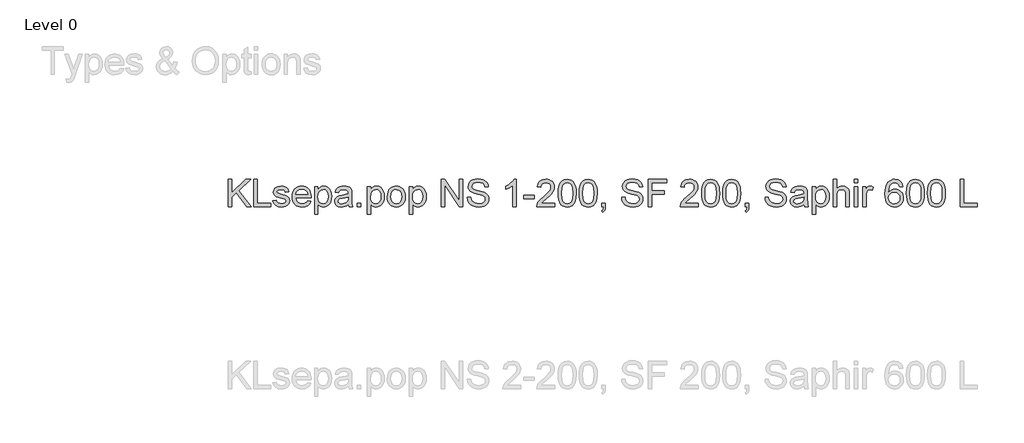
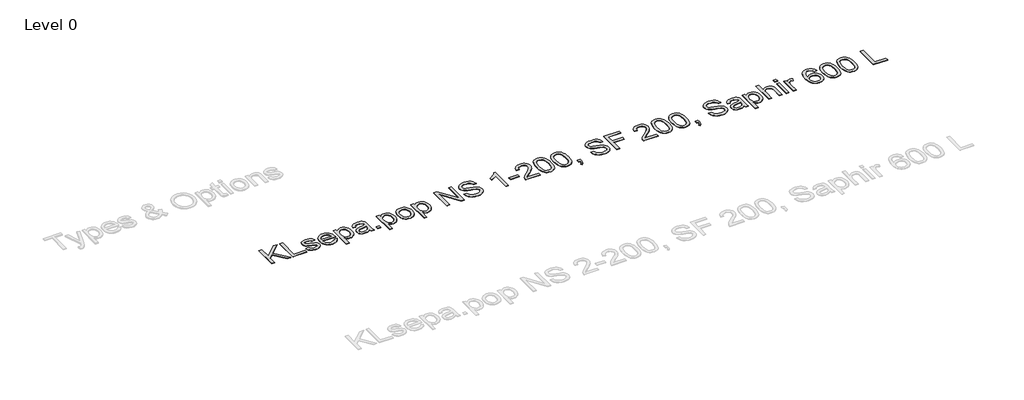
# One storey, part 15 of 15: 1 proxy.
"""IFC4 building model written with IfcOpenShell, lengths in millimetres."""

import ifcopenshell
import ifcopenshell.guid

model = None  # the IFC model being written
_history = None  # IfcOwnerHistory: only IFC2X3 demands one
_inside = {}  # id of a spatial element -> (the spatial element, [elements in it])
_under = {}  # id of a project, library or spatial element -> (it, [spatial elements below it])
_declared = {}  # id of a project -> (the project, [libraries it declares])
_typed = {}  # id of a type object -> (the type object, [elements of that type])
_made_of = {}  # id of a material, layer set ... -> (it, [elements and type objects made of it])


def new_model(schema):
    """Start an empty IFC model of exactly this schema.

    Asked for "IFC4X3", IfcOpenShell would pick the latest addendum, in which some entities
    have other attributes; the version numbers below select the first issue.
    IFC2X3 requires an IfcOwnerHistory on every rooted entity: one is made here for all.
    """
    global model, _history
    if schema == "IFC4X3":
        model = ifcopenshell.file(schema_version=(4, 3, 0, 0))
    else:
        model = ifcopenshell.file(schema=schema)
    _inside.clear()
    _under.clear()
    _declared.clear()
    _typed.clear()
    _made_of.clear()
    _history = None
    if model.schema == "IFC2X3":
        org = make("IfcOrganization", Name="unknown")
        user = make(
            "IfcPersonAndOrganization",
            ThePerson=make("IfcPerson", FamilyName="unknown"),
            TheOrganization=org,
        )
        app = make(
            "IfcApplication",
            ApplicationDeveloper=org,
            Version="unknown",
            ApplicationFullName="unknown",
            ApplicationIdentifier="unknown",
        )
        _history = make(
            "IfcOwnerHistory",
            OwningUser=user,
            OwningApplication=app,
            ChangeAction="ADDED",
            CreationDate=0,
        )
    return model


def make(cls, **values):
    """One entity of the class cls with the attributes given. An attribute that is None is left unset."""
    return model.create_entity(
        cls, **{name: value for name, value in values.items() if value is not None}
    )


def rooted(cls, **values):
    """An entity with a GlobalId (a new one), such as an element, a storey or a relation."""
    return make(cls, GlobalId=ifcopenshell.guid.new(), OwnerHistory=_history, **values)


def si_unit(unit_type, name, prefix=None):
    """IfcSIUnit, for example si_unit("LENGTHUNIT", "METRE", prefix="MILLI")."""
    return make("IfcSIUnit", UnitType=unit_type, Prefix=prefix, Name=name)


def assignment(units):
    """IfcUnitAssignment: the units of a project."""
    return None if units is None else make("IfcUnitAssignment", Units=units)


def point(xyz):
    """IfcCartesianPoint."""
    return None if xyz is None else make("IfcCartesianPoint", Coordinates=xyz)


def direction(xyz):
    """IfcDirection."""
    return None if xyz is None else make("IfcDirection", DirectionRatios=xyz)


def frame(location, z_axis=None, x_axis=None):
    """IfcAxis2Placement3D, a coordinate frame: its origin and axes. An axis left out is left unset."""
    return make(
        "IfcAxis2Placement3D",
        Location=point(location),
        Axis=direction(z_axis),
        RefDirection=direction(x_axis),
    )


def origin():
    """The frame at (0, 0, 0) with its axes left unset."""
    return frame((0.0, 0.0, 0.0))


def origin_with_axes():
    """The frame at (0, 0, 0) with the z axis (0, 0, 1) and the x axis (1, 0, 0) written out."""
    return frame((0.0, 0.0, 0.0), z_axis=(0.0, 0.0, 1.0), x_axis=(1.0, 0.0, 0.0))


def place(relative_to, where):
    """IfcLocalPlacement: puts the frame where relative to a parent placement (None: the world)."""
    return make(
        "IfcLocalPlacement", PlacementRelTo=relative_to, RelativePlacement=where
    )


def context(
    kind, dimensions, precision=None, world=None, true_north=None, identifier=None
):
    """IfcGeometricRepresentationContext, for example the 3D "Model" context."""
    return make(
        "IfcGeometricRepresentationContext",
        ContextIdentifier=identifier,
        ContextType=kind,
        CoordinateSpaceDimension=dimensions,
        Precision=precision,
        WorldCoordinateSystem=world,
        TrueNorth=true_north,
    )


def project(units=None, contexts=None):
    """IfcProject with its units and contexts."""
    return rooted(
        "IfcProject",
        Name="project",
        RepresentationContexts=contexts,
        UnitsInContext=assignment(units),
    )


def spatial(cls, under=None, at=None, **own):
    """A site, building, storey or space (cls), placed at a placement, below another one or the project."""
    s = rooted(cls, ObjectPlacement=at, **own)
    if under is not None:
        _under.setdefault(under.id(), (under, []))[1].append(s)
    return s


def polyline(points):
    """IfcPolyline through the points."""
    return make("IfcPolyline", Points=[point(p) for p in points])


def outline(outer, holes=None, kind="AREA"):
    """IfcArbitraryClosedProfileDef: a profile drawn as a closed curve; with holes, ...WithVoids."""
    if holes is None:
        return make("IfcArbitraryClosedProfileDef", ProfileType=kind, OuterCurve=outer)
    return make(
        "IfcArbitraryProfileDefWithVoids",
        ProfileType=kind,
        OuterCurve=outer,
        InnerCurves=holes,
    )


def extrude(swept, where, along, depth):
    """IfcExtrudedAreaSolid: the profile swept, set in the frame where, extruded along a direction by depth."""
    return make(
        "IfcExtrudedAreaSolid",
        SweptArea=swept,
        Position=where,
        ExtrudedDirection=direction(along),
        Depth=depth,
    )


def shape(context_of_items, identifier, shape_type, items):
    """IfcShapeRepresentation: the items that make up one representation, for example the "Body"."""
    return make(
        "IfcShapeRepresentation",
        ContextOfItems=context_of_items,
        RepresentationIdentifier=identifier,
        RepresentationType=shape_type,
        Items=items,
    )


def made_of(thing, what):
    """Note that an element or type object is made of a material, layer set ...; save() writes the relation."""
    if what is not None:
        _made_of.setdefault(what.id(), (what, []))[1].append(thing)
    return thing


def element(
    cls,
    number,
    at=None,
    inside=None,
    cuts=None,
    type_object=None,
    material=None,
    context=None,
    identifier="Body",
    shape_type=None,
    held_by="IfcProductDefinitionShape",
    body=None,
    shapes=None,
    **own,
):
    """One element of the class cls, such as IfcWall. Its Tag is "e" and its number.

    at: its placement. inside: the storey or other place that contains it. cuts: it is an
    opening in that element (IfcRelVoidsElement). A single representation is given by context,
    identifier, shape_type and body (its items); several are given by shapes. held_by: the class
    of the entity that holds the representations. save() writes the other relations.
    """
    e = rooted(cls, Tag="e%d" % number, ObjectPlacement=at, **own)
    if body is not None:
        shapes = [shape(context, identifier, shape_type, body)]
    if shapes is not None:
        e.Representation = make(held_by, Representations=shapes)
    if inside is not None:
        _inside.setdefault(inside.id(), (inside, []))[1].append(e)
    if cuts is not None:
        rooted(
            "IfcRelVoidsElement", RelatingBuildingElement=cuts, RelatedOpeningElement=e
        )
    if type_object is not None:
        _typed.setdefault(type_object.id(), (type_object, []))[1].append(e)
    return made_of(e, material)


def aggregate(whole, parts):
    """IfcRelAggregates: a whole, such as a stair, and the parts it consists of."""
    return rooted("IfcRelAggregates", RelatingObject=whole, RelatedObjects=parts)


def save(model, path):
    """Write the relations noted so far, then the file.

    IfcRelAggregates (storeys below a building ...), IfcRelContainedInSpatialStructure (elements
    in a storey), IfcRelDefinesByType, IfcRelAssociatesMaterial and IfcRelDeclares: one each for
    every whole, place, type object, material and project.
    """
    for whole, parts in _under.values():
        aggregate(whole, parts)
    for where, things in _inside.values():
        rooted(
            "IfcRelContainedInSpatialStructure",
            RelatedElements=things,
            RelatingStructure=where,
        )
    for kind, things in _typed.values():
        rooted("IfcRelDefinesByType", RelatedObjects=things, RelatingType=kind)
    for what, things in _made_of.values():
        rooted("IfcRelAssociatesMaterial", RelatedObjects=things, RelatingMaterial=what)
    for by, libraries in _declared.values():
        rooted("IfcRelDeclares", RelatingContext=by, RelatedDefinitions=libraries)
    model.write(path)


model = new_model("IFC4")

# Units and contexts
model_context = context("Model", 3, world=origin())
ifc_project = project(units=[si_unit("LENGTHUNIT", "METRE", prefix="MILLI")], contexts=[model_context])

# Site, building, storey
site = spatial("IfcSite", under=ifc_project)
building = spatial("IfcBuilding", under=site)
storey = spatial("IfcBuildingStorey", under=building, Name="Level 0", Elevation=0.0)

# Proxy
placement = place(None, origin())
element("IfcBuildingElementProxy", 1, Name="300mm Arial", ObjectType="300mm Arial", at=placement, inside=storey, context=model_context, shape_type="SweptSolid", body=[
    extrude(outline(polyline([(862.8420262, 10199.0232018), (862.8420262, 10500.3921323), (900.5131425, 10500.3921323), (900.5131425, 10352.8714522), (1055.0235805, 10500.3921323), (1107.7042822, 10500.3921323), (977.9890907, 10376.4894763), (1112.4131718, 10199.0232018), (1066.354346, 10199.0232018), (951.2808579, 10351.0320422), (900.5131425, 10302.6187717), (900.5131425, 10199.0232018), (862.8420262, 10199.0232018)])), origin_with_axes(), (0.0, 0.0, 1.0), 5.0),
    extrude(outline(polyline([(1140.666509, 10199.0232018), (1140.666509, 10500.3921323), (1178.3376253, 10500.3921323), (1178.3376253, 10236.6943181), (1329.0220905, 10236.6943181), (1329.0220905, 10199.0232018), (1140.666509, 10199.0232018)])), origin_with_axes(), (0.0, 0.0, 1.0), 5.0),
    extrude(outline(polyline([(1352.5665382, 10264.9476554), (1390.2376545, 10269.6565449), (1396.1789487, 10253.5433135), (1407.6752611, 10241.6975133), (1424.800168, 10234.4134498), (1447.6272458, 10231.9854286), (1470.1784121, 10234.2111147), (1486.0341261, 10240.8881729), (1495.4151169, 10250.5634693), (1498.5421139, 10261.7838702), (1495.3967228, 10271.3855903), (1485.9605497, 10278.706442), (1447.1857874, 10289.4485962), (1390.4583837, 10307.8794842), (1376.1017888, 10317.1409134), (1365.6999254, 10329.4005809), (1359.3815522, 10343.8767374), (1357.2754277, 10359.7876337), (1358.9676849, 10374.3833519), (1364.0444565, 10387.8570299), (1372.0458899, 10399.675239), (1382.5121326, 10409.3045503), (1406.4612505, 10420.4513747), (1438.8716543, 10425.0498997), (1463.3909893, 10423.2012926), (1484.7097509, 10417.6554716), (1501.8530519, 10408.9550624), (1513.8460049, 10397.642691), (1521.792256, 10382.881426), (1526.7954511, 10363.8343357), (1489.1243348, 10359.1254461), (1484.36946, 10370.9804434), (1474.960878, 10379.9107789), (1460.8066182, 10385.5117822), (1441.8147102, 10387.3787834), (1420.1832489, 10385.5945557), (1405.7622747, 10380.2418726), (1397.6504767, 10372.5163507), (1394.9465441, 10363.6136065), (1399.4347044, 10352.650723), (1413.4877966, 10344.3365899), (1445.9349886, 10336.3167624), (1501.2276525, 10318.5848503), (1515.8325677, 10310.1051703), (1526.9058157, 10298.4984933), (1533.8863766, 10283.7280312), (1536.2132302, 10265.7569957), (1533.4817064, 10247.178955), (1525.2871349, 10229.7045602), (1511.9422156, 10214.7041719), (1493.759648, 10203.5481504), (1471.7970928, 10196.6227718), (1447.112211, 10194.3143123), (1409.128395, 10198.7656844), (1381.4084866, 10212.1198009), (1362.9040223, 10234.2295088), (1352.5665382, 10264.9476554)])), origin_with_axes(), (0.0, 0.0, 1.0), 5.0),
    extrude(outline(polyline([(1733.5451324, 10264.9476554), (1770.4804847, 10260.2387658), (1757.1723536, 10232.4084929), (1735.9363654, 10211.6047661), (1707.2507668, 10198.6369257), (1671.5938044, 10194.3143123), (1648.2195022, 10196.1790141), (1627.3927827, 10201.7731197), (1609.1136461, 10211.0966291), (1593.3820923, 10224.1495421), (1580.7315501, 10240.5685754), (1571.6954486, 10259.9904455), (1566.2737877, 10282.4151523), (1564.4665674, 10307.842696), (1566.2921818, 10334.1324631), (1571.769025, 10357.3044302), (1580.897097, 10377.3585975), (1593.6763978, 10394.2949649), (1609.3665649, 10407.7502488), (1627.2272358, 10417.361166), (1647.2584104, 10423.1277162), (1669.4600889, 10425.0498997), (1690.9466966, 10423.1323148), (1710.3777638, 10417.3795601), (1727.7532903, 10407.7916356), (1743.0732761, 10394.3685413), (1755.5789647, 10377.4689621), (1764.5115994, 10357.451583), (1769.8711802, 10334.3164041), (1771.6577071, 10308.0634252), (1771.4369779, 10297.9098821), (1602.1376837, 10297.9098821), (1608.6583921, 10269.7117272), (1623.8059333, 10248.9815768), (1645.6673208, 10236.2344656), (1672.3295684, 10231.9854286), (1692.3791372, 10233.9535973), (1709.2649207, 10239.8581033), (1722.9869192, 10250.0668287), (1733.5451324, 10264.9476554)]), holes=[polyline([(1602.1376837, 10335.5809984), (1733.9865908, 10335.5809984), (1728.8914252, 10355.4834144), (1718.903429, 10369.7204476), (1696.9408739, 10382.9641994), (1669.3129361, 10387.3787834), (1643.9198813, 10383.8563132), (1622.9230165, 10373.2889029), (1608.3272983, 10356.8169866), (1602.1376837, 10335.5809984)])]), origin_with_axes(), (0.0, 0.0, 1.0), 5.0),
    extrude(outline(polyline([(1809.3288234, 10114.2631901), (1809.3288234, 10420.3410101), (1846.9999397, 10420.3410101), (1846.9999397, 10383.4056578), (1859.2871984, 10401.6250136), (1873.045985, 10414.6388392), (1889.08564, 10422.4471345), (1908.2155037, 10425.0498997), (1933.6913319, 10421.4078679), (1955.9665867, 10410.4817726), (1974.1031691, 10392.9338015), (1987.1629799, 10369.426142), (1995.0540487, 10341.6694455), (1997.6844049, 10311.3743631), (1994.7137578, 10279.1570974), (1985.8018165, 10250.3427401), (1971.2336895, 10226.3936223), (1951.2944854, 10208.7720747), (1928.0719344, 10197.9287529), (1903.653767, 10194.3143123), (1886.3357221, 10196.7331364), (1870.8754812, 10203.9896088), (1857.6409264, 10214.9432952), (1846.9999397, 10228.4537614), (1846.9999397, 10114.2631901), (1809.3288234, 10114.2631901)]), holes=[polyline([(1846.9999397, 10307.9162724), (1851.0742328, 10274.1447052), (1863.2971121, 10250.5266811), (1881.3325269, 10236.6207417), (1902.8444266, 10231.9854286), (1924.7058142, 10236.7862886), (1943.2010815, 10251.1888687), (1955.8102368, 10275.6714155), (1960.0132886, 10310.7121756), (1955.9114044, 10344.2998017), (1943.6057517, 10368.2489196), (1925.597928, 10382.5963174), (1904.389531, 10387.3787834), (1883.0983605, 10382.2928148), (1864.4007581, 10367.034909), (1851.3501443, 10342.0833127), (1846.9999397, 10307.9162724)])]), origin_with_axes(), (0.0, 0.0, 1.0), 5.0),
    extrude(outline(polyline([(2181.3310969, 10227.2765391), (2163.3324703, 10211.8438894), (2144.8004148, 10201.7455286), (2125.3118661, 10196.1721164), (2104.44376, 10194.3143123), (2072.9622582, 10198.7840785), (2049.7397073, 10212.1933772), (2035.4199006, 10232.5556457), (2030.6466317, 10257.8843211), (2032.4492535, 10273.5009117), (2037.8571188, 10287.6827627), (2046.1988431, 10299.8228685), (2056.8030416, 10309.314224), (2083.1801806, 10321.675059), (2115.7745254, 10327.3404417), (2154.2917703, 10333.3001301), (2181.1103677, 10340.289888), (2181.3310969, 10348.6775975), (2178.7375289, 10365.4898046), (2170.9568247, 10376.4894763), (2153.5560063, 10384.6564566), (2129.3125828, 10387.3787834), (2106.8717811, 10385.5669645), (2091.2000081, 10380.131508), (2080.5130362, 10370.0791325), (2073.0266376, 10354.4165566), (2035.3555213, 10359.1254461), (2041.8946237, 10379.7268379), (2051.6526936, 10395.9136456), (2065.540239, 10408.2928748), (2084.4677676, 10417.4715306), (2107.6167422, 10423.1553074), (2134.1686252, 10425.0498997), (2159.6352563, 10423.3760366), (2179.8227808, 10418.3544473), (2195.0438983, 10410.8036694), (2205.6113086, 10401.5422402), (2212.6194606, 10390.0919131), (2217.1628033, 10375.9744415), (2219.0022132, 10343.0122147), (2219.0022132, 10296.1440485), (2220.9151996, 10230.6978416), (2228.4199923, 10199.0232018), (2190.748876, 10199.0232018), (2181.3310969, 10227.2765391)]), holes=[polyline([(2181.3310969, 10302.6187717), (2120.5569913, 10291.067277), (2088.1465876, 10284.9604359), (2073.468096, 10275.027622), (2068.317748, 10260.5330714), (2071.1228482, 10249.3310647), (2079.5381489, 10240.1524089), (2093.3797089, 10234.0271737), (2112.4635874, 10231.9854286), (2132.6970972, 10234.2387058), (2150.5761621, 10240.9985375), (2165.0707128, 10250.9589425), (2175.1506794, 10262.8139398), (2179.6204457, 10275.027622), (2181.1103677, 10291.9501938), (2181.3310969, 10302.6187717)])]), origin_with_axes(), (0.0, 0.0, 1.0), 5.0),
    extrude(outline(polyline([(2280.2177772, 10199.0232018), (2280.2177772, 10236.6943181), (2317.8888936, 10236.6943181), (2317.8888936, 10199.0232018), (2280.2177772, 10199.0232018)])), origin_with_axes(), (0.0, 0.0, 1.0), 5.0),
    extrude(outline(polyline([(2388.5222366, 10114.2631901), (2388.5222366, 10420.3410101), (2426.1933529, 10420.3410101), (2426.1933529, 10383.4056578), (2438.4806116, 10401.6250136), (2452.2393982, 10414.6388392), (2468.2790532, 10422.4471345), (2487.4089169, 10425.0498997), (2512.8847451, 10421.4078679), (2535.1599999, 10410.4817726), (2553.2965823, 10392.9338015), (2566.3563931, 10369.426142), (2574.2474619, 10341.6694455), (2576.8778182, 10311.3743631), (2573.907171, 10279.1570974), (2564.9952297, 10250.3427401), (2550.4271027, 10226.3936223), (2530.4878986, 10208.7720747), (2507.2653476, 10197.9287529), (2482.8471802, 10194.3143123), (2465.5291353, 10196.7331364), (2450.0688944, 10203.9896088), (2436.8343396, 10214.9432952), (2426.1933529, 10228.4537614), (2426.1933529, 10114.2631901), (2388.5222366, 10114.2631901)]), holes=[polyline([(2426.1933529, 10307.9162724), (2430.267646, 10274.1447052), (2442.4905253, 10250.5266811), (2460.5259401, 10236.6207417), (2482.0378398, 10231.9854286), (2503.8992274, 10236.7862886), (2522.3944947, 10251.1888687), (2535.0036501, 10275.6714155), (2539.2067019, 10310.7121756), (2535.1048176, 10344.2998017), (2522.7991649, 10368.2489196), (2504.7913412, 10382.5963174), (2483.5829442, 10387.3787834), (2462.2917737, 10382.2928148), (2443.5941713, 10367.034909), (2430.5435575, 10342.0833127), (2426.1933529, 10307.9162724)])]), origin_with_axes(), (0.0, 0.0, 1.0), 5.0),
    extrude(outline(polyline([(2609.8400449, 10309.682106), (2611.8771915, 10338.3447119), (2617.9886311, 10363.0433894), (2628.1743639, 10383.7781383), (2642.4343897, 10400.5489588), (2656.7909846, 10411.2681204), (2672.6375015, 10418.9246644), (2689.9739405, 10423.5185909), (2708.8003016, 10425.0498997), (2729.5833351, 10423.1851978), (2748.3752073, 10417.5910922), (2765.1759181, 10408.2675829), (2779.9854677, 10395.2146698), (2792.0726905, 10378.8738115), (2800.7064211, 10359.6864662), (2805.8866594, 10337.6526339), (2807.6134055, 10312.7723147), (2804.559985, 10274.7149223), (2795.3997233, 10245.7442152), (2780.3993349, 10224.0483745), (2759.8255344, 10207.8155815), (2735.3889728, 10197.6896296), (2708.8003016, 10194.3143123), (2687.7137655, 10196.1721164), (2668.7471494, 10201.7455286), (2651.9004533, 10211.034549), (2637.1736772, 10224.0391775), (2625.2152131, 10240.538685), (2616.673453, 10260.3123422), (2611.5483969, 10283.3601492), (2609.8400449, 10309.682106)]), holes=[polyline([(2647.5111612, 10309.7556824), (2651.8705629, 10275.6622185), (2664.9487678, 10251.3728097), (2684.6304545, 10236.8322739), (2708.8003016, 10231.9854286), (2732.8597841, 10236.859865), (2752.5046827, 10251.4831743), (2765.5828876, 10276.0944798), (2769.9422892, 10310.9329048), (2765.5552964, 10344.0330873), (2752.3943181, 10367.9914022), (2732.7218284, 10382.5319381), (2708.8003016, 10387.3787834), (2684.6304545, 10382.5503322), (2664.9487678, 10368.0649786), (2651.8705629, 10343.8307522), (2647.5111612, 10309.7556824)])]), origin_with_axes(), (0.0, 0.0, 1.0), 5.0),
    extrude(outline(polyline([(2849.9934114, 10114.2631901), (2849.9934114, 10420.3410101), (2887.6645277, 10420.3410101), (2887.6645277, 10383.4056578), (2899.9517863, 10401.6250136), (2913.7105729, 10414.6388392), (2929.7502279, 10422.4471345), (2948.8800917, 10425.0498997), (2974.3559198, 10421.4078679), (2996.6311747, 10410.4817726), (3014.767757, 10392.9338015), (3027.8275678, 10369.426142), (3035.7186366, 10341.6694455), (3038.3489929, 10311.3743631), (3035.3783458, 10279.1570974), (3026.4664045, 10250.3427401), (3011.8982775, 10226.3936223), (2991.9590733, 10208.7720747), (2968.7365224, 10197.9287529), (2944.3183549, 10194.3143123), (2927.00031, 10196.7331364), (2911.5400692, 10203.9896088), (2898.3055144, 10214.9432952), (2887.6645277, 10228.4537614), (2887.6645277, 10114.2631901), (2849.9934114, 10114.2631901)]), holes=[polyline([(2887.6645277, 10307.9162724), (2891.7388208, 10274.1447052), (2903.9617001, 10250.5266811), (2921.9971149, 10236.6207417), (2943.5090145, 10231.9854286), (2965.3704021, 10236.7862886), (2983.8656694, 10251.1888687), (2996.4748248, 10275.6714155), (3000.6778766, 10310.7121756), (2996.5759924, 10344.2998017), (2984.2703396, 10368.2489196), (2966.262516, 10382.5963174), (2945.0541189, 10387.3787834), (2923.7629485, 10382.2928148), (2905.0653461, 10367.034909), (2892.0147323, 10342.0833127), (2887.6645277, 10307.9162724)])]), origin_with_axes(), (0.0, 0.0, 1.0), 5.0),
    extrude(outline(polyline([(3203.1601267, 10199.0232018), (3203.1601267, 10500.3921323), (3243.4799934, 10500.3921323), (3400.9334874, 10261.6367174), (3400.9334874, 10500.3921323), (3438.6046037, 10500.3921323), (3438.6046037, 10199.0232018), (3398.284737, 10199.0232018), (3240.8312431, 10437.8521931), (3240.8312431, 10199.0232018), (3203.1601267, 10199.0232018)])), origin_with_axes(), (0.0, 0.0, 1.0), 5.0),
    extrude(outline(polyline([(3490.4023886, 10302.6187717), (3528.0735049, 10302.6187717), (3532.3961183, 10281.7138773), (3540.2136107, 10264.9108672), (3552.4088989, 10251.5751448), (3569.8648995, 10241.0721139), (3591.2020553, 10234.2570999), (3615.0408085, 10231.9854286), (3636.0284764, 10233.7052769), (3654.404182, 10238.8648219), (3669.2942058, 10247.0318022), (3679.8248279, 10257.7739565), (3686.0880189, 10270.1072003), (3688.1757492, 10283.0474495), (3686.6122507, 10295.6566049), (3681.9217553, 10306.555109), (3672.3936116, 10315.8533264), (3656.3171684, 10323.6616218), (3601.4659629, 10338.0458078), (3565.4595126, 10347.5647544), (3542.4209027, 10356.6238486), (3523.668118, 10369.2973833), (3510.3783809, 10384.6564566), (3502.459721, 10402.3699747), (3499.8201677, 10422.1068437), (3503.0851204, 10444.1705664), (3512.8799785, 10464.7443669), (3528.9472246, 10482.1819735), (3551.0293414, 10494.8371141), (3577.5352391, 10502.5350449), (3606.8738283, 10505.1010218), (3638.6588326, 10502.4154832), (3666.4707115, 10494.3588675), (3689.3161834, 10481.0967216), (3706.2019669, 10462.7945924), (3716.8889389, 10440.592914), (3721.137976, 10415.6321206), (3683.4668596, 10415.6321206), (3676.5506781, 10438.1097105), (3662.1297039, 10454.3333065), (3639.5969317, 10464.1557557), (3608.3453562, 10467.4299055), (3576.3580168, 10464.1925439), (3554.4138557, 10454.4804593), (3541.7219269, 10440.1882438), (3537.491284, 10423.2104897), (3540.4895222, 10408.7343332), (3549.484237, 10397.090868), (3570.7478163, 10386.6798076), (3610.9941066, 10376.0480179), (3652.5279839, 10365.9496571), (3677.6543241, 10357.1388833), (3699.1294356, 10343.4720672), (3714.1114298, 10326.6046777), (3722.9130066, 10306.7206559), (3725.8468655, 10284.0039427), (3722.4715482, 10260.7813918), (3712.3455963, 10238.9383983), (3695.882877, 10220.1396283), (3673.4972576, 10206.0497479), (3646.5774926, 10197.2481712), (3616.5123365, 10194.3143123), (3579.6045754, 10197.4780974), (3549.2267196, 10206.9694529), (3525.0292814, 10222.8251669), (3506.6627728, 10245.0820276), (3494.8721548, 10272.1949307), (3490.4023886, 10302.6187717)])), origin_with_axes(), (0.0, 0.0, 1.0), 5.0),
    extrude(outline(polyline([(4027.2157959, 10199.0232018), (3989.5446796, 10199.0232018), (3989.5446796, 10433.8790675), (3953.8601261, 10408.4584217), (3914.202447, 10389.4389225), (3914.202447, 10425.0498997), (3943.7893565, 10441.1447369), (3969.4215345, 10460.2929948), (3989.6274531, 10480.6552632), (4002.9355843, 10500.3921323), (4027.2157959, 10500.3921323), (4027.2157959, 10199.0232018)])), origin_with_axes(), (0.0, 0.0, 1.0), 5.0),
    extrude(outline(polyline([(4107.2669181, 10288.492103), (4107.2669181, 10326.1632194), (4224.9891565, 10326.1632194), (4224.9891565, 10288.492103), (4107.2669181, 10288.492103)])), origin_with_axes(), (0.0, 0.0, 1.0), 5.0),
    extrude(outline(polyline([(4451.0158544, 10236.6943181), (4451.0158544, 10199.0232018), (4253.2424938, 10199.0232018), (4257.2891957, 10224.9956707), (4266.5782161, 10245.2935598), (4280.1714558, 10264.9844436), (4299.8347485, 10285.5950323), (4327.3339276, 10308.6520364), (4367.9848881, 10344.7596542), (4392.3754644, 10371.4127048), (4404.5707525, 10393.0441661), (4408.6358485, 10414.0870162), (4404.8006787, 10432.9501655), (4393.2951693, 10448.6311355), (4375.6092424, 10459.1985459), (4353.2328201, 10462.721016), (4329.7343576, 10459.2813193), (4311.4782136, 10448.9622293), (4299.6967927, 10432.5730865), (4295.6224996, 10410.923231), (4257.9513833, 10415.6321206), (4267.0840538, 10452.0708322), (4275.6304124, 10466.6067695), (4286.8301199, 10478.6870946), (4300.4256589, 10488.1830486), (4316.159512, 10494.9658728), (4354.0421605, 10500.3921323), (4374.2319842, 10498.8838161), (4392.2007204, 10494.3588675), (4407.9483691, 10486.8172866), (4421.4749302, 10476.2590734), (4432.3389453, 10463.465977), (4440.0989562, 10449.2197467), (4444.7549627, 10433.5203826), (4446.3069648, 10416.3678846), (4444.6331018, 10398.3508639), (4439.6115125, 10380.6465428), (4430.6995712, 10362.6387192), (4417.3546518, 10343.7111905), (4396.0818755, 10321.114039), (4363.3863631, 10292.0973466), (4320.0498641, 10255.8609701), (4303.0537159, 10236.6943181), (4451.0158544, 10236.6943181)])), origin_with_axes(), (0.0, 0.0, 1.0), 5.0),
    extrude(outline(polyline([(4488.6869707, 10347.2796459), (4491.4552827, 10395.5181725), (4499.7602187, 10433.9894321), (4513.5190054, 10463.282036), (4532.6488691, 10483.9845953), (4557.2877657, 10496.290248), (4587.573651, 10500.3921323), (4610.7870049, 10497.9641111), (4631.5723376, 10490.6800476), (4648.9547619, 10478.8250503), (4661.9593904, 10462.6842278), (4671.7818397, 10442.3955357), (4679.6177262, 10418.0969299), (4684.74968, 10387.2408276), (4686.4603313, 10347.2796459), (4683.7196104, 10299.3170308), (4675.4974478, 10260.9377416), (4661.8214347, 10231.6175466), (4642.7191621, 10210.8322139), (4618.0250831, 10198.4437877), (4587.573651, 10194.3143123), (4566.8251065, 10196.107737), (4548.4310067, 10201.4880112), (4532.3913517, 10210.4551348), (4518.7061415, 10223.0091079), (4505.5727543, 10245.7028285), (4496.1917634, 10273.9791583), (4490.5631689, 10307.8380975), (4488.6869707, 10347.2796459)]), holes=[polyline([(4526.358087, 10347.3532223), (4530.7726709, 10288.0966299), (4536.2909009, 10267.8286312), (4544.0164228, 10253.8008309), (4563.7348977, 10237.4392792), (4587.573651, 10231.9854286), (4611.4124043, 10237.4576733), (4631.1308792, 10253.8744073), (4638.8564011, 10267.9252003), (4644.374631, 10288.1886004), (4648.789215, 10347.3532223), (4644.5217838, 10405.2762424), (4639.1874949, 10425.4775625), (4631.7194904, 10439.8387559), (4612.0378037, 10457.0004509), (4587.1321926, 10462.721016), (4563.5509567, 10457.6810326), (4544.605034, 10442.5610826), (4536.6219947, 10426.9260978), (4530.9198237, 10405.8464595), (4526.358087, 10347.3532223)])]), origin_with_axes(), (0.0, 0.0, 1.0), 5.0),
    extrude(outline(polyline([(4719.4225581, 10347.2796459), (4722.1908701, 10395.5181725), (4730.4958061, 10433.9894321), (4744.2545927, 10463.282036), (4763.3844565, 10483.9845953), (4788.0233531, 10496.290248), (4818.3092384, 10500.3921323), (4841.5225923, 10497.9641111), (4862.307925, 10490.6800476), (4879.6903493, 10478.8250503), (4892.6949778, 10462.6842278), (4902.5174271, 10442.3955357), (4910.3533136, 10418.0969299), (4915.4852674, 10387.2408276), (4917.1959187, 10347.2796459), (4914.4551978, 10299.3170308), (4906.2330352, 10260.9377416), (4892.557022, 10231.6175466), (4873.4547494, 10210.8322139), (4848.7606705, 10198.4437877), (4818.3092384, 10194.3143123), (4797.5606938, 10196.107737), (4779.1665941, 10201.4880112), (4763.1269391, 10210.4551348), (4749.4417289, 10223.0091079), (4736.3083416, 10245.7028285), (4726.9273508, 10273.9791583), (4721.2987562, 10307.8380975), (4719.4225581, 10347.2796459)]), holes=[polyline([(4757.0936744, 10347.3532223), (4761.5082583, 10288.0966299), (4767.0264882, 10267.8286312), (4774.7520101, 10253.8008309), (4794.4704851, 10237.4392792), (4818.3092384, 10231.9854286), (4842.1479917, 10237.4576733), (4861.8664666, 10253.8744073), (4869.5919885, 10267.9252003), (4875.1102184, 10288.1886004), (4879.5248024, 10347.3532223), (4875.2573712, 10405.2762424), (4869.9230823, 10425.4775625), (4862.4550778, 10439.8387559), (4842.773391, 10457.0004509), (4817.86778, 10462.721016), (4794.2865441, 10457.6810326), (4775.3406213, 10442.5610826), (4767.357582, 10426.9260978), (4761.6554111, 10405.8464595), (4757.0936744, 10347.3532223)])]), origin_with_axes(), (0.0, 0.0, 1.0), 5.0),
    extrude(outline(polyline([(4968.9937036, 10199.0232018), (4968.9937036, 10236.6943181), (5006.6648199, 10236.6943181), (5006.6648199, 10199.0232018), (5004.9725627, 10177.474514), (4999.8957912, 10160.5059569), (4991.1401997, 10147.4921313), (4978.4114827, 10137.8076378), (4968.9937036, 10151.9343064), (4977.1606839, 10158.7585174), (4982.8260666, 10168.1946906), (4987.7556853, 10199.0232018), (4968.9937036, 10199.0232018)])), origin_with_axes(), (0.0, 0.0, 1.0), 5.0),
    extrude(outline(polyline([(5185.6026224, 10302.6187717), (5223.2737387, 10302.6187717), (5227.5963521, 10281.7138773), (5235.4138445, 10264.9108672), (5247.6091326, 10251.5751448), (5265.0651333, 10241.0721139), (5286.402289, 10234.2570999), (5310.2410423, 10231.9854286), (5331.2287101, 10233.7052769), (5349.6044158, 10238.8648219), (5364.4944396, 10247.0318022), (5375.0250617, 10257.7739565), (5381.2882526, 10270.1072003), (5383.375983, 10283.0474495), (5381.8124845, 10295.6566049), (5377.121989, 10306.555109), (5367.5938454, 10315.8533264), (5351.5174022, 10323.6616218), (5296.6661967, 10338.0458078), (5260.6597464, 10347.5647544), (5237.6211365, 10356.6238486), (5218.8683518, 10369.2973833), (5205.5786147, 10384.6564566), (5197.6599547, 10402.3699747), (5195.0204014, 10422.1068437), (5198.2853541, 10444.1705664), (5208.0802123, 10464.7443669), (5224.1474584, 10482.1819735), (5246.2295752, 10494.8371141), (5272.7354729, 10502.5350449), (5302.074062, 10505.1010218), (5333.8590664, 10502.4154832), (5361.6709452, 10494.3588675), (5384.5164171, 10481.0967216), (5401.4022007, 10462.7945924), (5412.0891727, 10440.592914), (5416.3382097, 10415.6321206), (5378.6670934, 10415.6321206), (5371.7509119, 10438.1097105), (5357.3299377, 10454.3333065), (5334.7971655, 10464.1557557), (5303.54559, 10467.4299055), (5271.5582505, 10464.1925439), (5249.6140895, 10454.4804593), (5236.9221607, 10440.1882438), (5232.6915177, 10423.2104897), (5235.689756, 10408.7343332), (5244.6844708, 10397.090868), (5265.9480501, 10386.6798076), (5306.1943404, 10376.0480179), (5347.7282176, 10365.9496571), (5372.8545579, 10357.1388833), (5394.3296694, 10343.4720672), (5409.3116636, 10326.6046777), (5418.1132404, 10306.7206559), (5421.0470993, 10284.0039427), (5417.671782, 10260.7813918), (5407.54583, 10238.9383983), (5391.0831108, 10220.1396283), (5368.6974914, 10206.0497479), (5341.7777264, 10197.2481712), (5311.7125703, 10194.3143123), (5274.8048091, 10197.4780974), (5244.4269534, 10206.9694529), (5220.2295151, 10222.8251669), (5201.8630065, 10245.0820276), (5190.0723886, 10272.1949307), (5185.6026224, 10302.6187717)])), origin_with_axes(), (0.0, 0.0, 1.0), 5.0),
    extrude(outline(polyline([(5477.5537737, 10199.0232018), (5477.5537737, 10500.3921323), (5680.0360239, 10500.3921323), (5680.0360239, 10462.721016), (5515.22489, 10462.721016), (5515.22489, 10373.2521147), (5656.4915762, 10373.2521147), (5656.4915762, 10335.5809984), (5515.22489, 10335.5809984), (5515.22489, 10199.0232018), (5477.5537737, 10199.0232018)])), origin_with_axes(), (0.0, 0.0, 1.0), 5.0),
    extrude(outline(polyline([(6028.4938497, 10236.6943181), (6028.4938497, 10199.0232018), (5830.7204891, 10199.0232018), (5834.767191, 10224.9956707), (5844.0562114, 10245.2935598), (5857.6494511, 10264.9844436), (5877.3127438, 10285.5950323), (5904.8119229, 10308.6520364), (5945.4628834, 10344.7596542), (5969.8534597, 10371.4127048), (5982.0487478, 10393.0441661), (5986.1138439, 10414.0870162), (5982.2786741, 10432.9501655), (5970.7731647, 10448.6311355), (5953.0872377, 10459.1985459), (5930.7108154, 10462.721016), (5907.2123529, 10459.2813193), (5888.9562089, 10448.9622293), (5877.174788, 10432.5730865), (5873.1004949, 10410.923231), (5835.4293786, 10415.6321206), (5844.5620492, 10452.0708322), (5853.1084078, 10466.6067695), (5864.3081153, 10478.6870946), (5877.9036542, 10488.1830486), (5893.6375073, 10494.9658728), (5931.5201558, 10500.3921323), (5951.7099795, 10498.8838161), (5969.6787157, 10494.3588675), (5985.4263644, 10486.8172866), (5998.9529255, 10476.2590734), (6009.8169407, 10463.465977), (6017.5769515, 10449.2197467), (6022.232958, 10433.5203826), (6023.7849602, 10416.3678846), (6022.1110971, 10398.3508639), (6017.0895079, 10380.6465428), (6008.1775665, 10362.6387192), (5994.8326471, 10343.7111905), (5973.5598708, 10321.114039), (5940.8643585, 10292.0973466), (5897.5278594, 10255.8609701), (5880.5317112, 10236.6943181), (6028.4938497, 10236.6943181)])), origin_with_axes(), (0.0, 0.0, 1.0), 5.0),
    extrude(outline(polyline([(6066.164966, 10347.2796459), (6068.933278, 10395.5181725), (6077.2382141, 10433.9894321), (6090.9970007, 10463.282036), (6110.1268644, 10483.9845953), (6134.7657611, 10496.290248), (6165.0516463, 10500.3921323), (6188.2650002, 10497.9641111), (6209.0503329, 10490.6800476), (6226.4327572, 10478.8250503), (6239.4373857, 10462.6842278), (6249.259835, 10442.3955357), (6257.0957215, 10418.0969299), (6262.2276753, 10387.2408276), (6263.9383266, 10347.2796459), (6261.1976058, 10299.3170308), (6252.9754432, 10260.9377416), (6239.29943, 10231.6175466), (6220.1971574, 10210.8322139), (6195.5030785, 10198.4437877), (6165.0516463, 10194.3143123), (6144.3031018, 10196.107737), (6125.909002, 10201.4880112), (6109.869347, 10210.4551348), (6096.1841368, 10223.0091079), (6083.0507496, 10245.7028285), (6073.6697587, 10273.9791583), (6068.0411642, 10307.8380975), (6066.164966, 10347.2796459)]), holes=[polyline([(6103.8360823, 10347.3532223), (6108.2506663, 10288.0966299), (6113.7688962, 10267.8286312), (6121.4944181, 10253.8008309), (6141.212893, 10237.4392792), (6165.0516463, 10231.9854286), (6188.8903996, 10237.4576733), (6208.6088745, 10253.8744073), (6216.3343964, 10267.9252003), (6221.8526264, 10288.1886004), (6226.2672103, 10347.3532223), (6221.9997792, 10405.2762424), (6216.6654902, 10425.4775625), (6209.1974857, 10439.8387559), (6189.515799, 10457.0004509), (6164.6101879, 10462.721016), (6141.028952, 10457.6810326), (6122.0830293, 10442.5610826), (6114.09999, 10426.9260978), (6108.3978191, 10405.8464595), (6103.8360823, 10347.3532223)])]), origin_with_axes(), (0.0, 0.0, 1.0), 5.0),
    extrude(outline(polyline([(6296.9005534, 10347.2796459), (6299.6688654, 10395.5181725), (6307.9738014, 10433.9894321), (6321.7325881, 10463.282036), (6340.8624518, 10483.9845953), (6365.5013484, 10496.290248), (6395.7872337, 10500.3921323), (6419.0005876, 10497.9641111), (6439.7859203, 10490.6800476), (6457.1683446, 10478.8250503), (6470.1729731, 10462.6842278), (6479.9954224, 10442.3955357), (6487.8313089, 10418.0969299), (6492.9632627, 10387.2408276), (6494.673914, 10347.2796459), (6491.9331931, 10299.3170308), (6483.7110305, 10260.9377416), (6470.0350174, 10231.6175466), (6450.9327448, 10210.8322139), (6426.2386658, 10198.4437877), (6395.7872337, 10194.3143123), (6375.0386892, 10196.107737), (6356.6445894, 10201.4880112), (6340.6049344, 10210.4551348), (6326.9197242, 10223.0091079), (6313.786337, 10245.7028285), (6304.4053461, 10273.9791583), (6298.7767516, 10307.8380975), (6296.9005534, 10347.2796459)]), holes=[polyline([(6334.5716697, 10347.3532223), (6338.9862536, 10288.0966299), (6344.5044836, 10267.8286312), (6352.2300055, 10253.8008309), (6371.9484804, 10237.4392792), (6395.7872337, 10231.9854286), (6419.625987, 10237.4576733), (6439.3444619, 10253.8744073), (6447.0699838, 10267.9252003), (6452.5882137, 10288.1886004), (6457.0027977, 10347.3532223), (6452.7353665, 10405.2762424), (6447.4010776, 10425.4775625), (6439.9330731, 10439.8387559), (6420.2513864, 10457.0004509), (6395.3457753, 10462.721016), (6371.7645394, 10457.6810326), (6352.8186167, 10442.5610826), (6344.8355774, 10426.9260978), (6339.1334064, 10405.8464595), (6334.5716697, 10347.3532223)])]), origin_with_axes(), (0.0, 0.0, 1.0), 5.0),
    extrude(outline(polyline([(6546.4716989, 10199.0232018), (6546.4716989, 10236.6943181), (6584.1428152, 10236.6943181), (6584.1428152, 10199.0232018), (6582.450558, 10177.474514), (6577.3737865, 10160.5059569), (6568.618195, 10147.4921313), (6555.889478, 10137.8076378), (6546.4716989, 10151.9343064), (6554.6386792, 10158.7585174), (6560.3040619, 10168.1946906), (6565.2336807, 10199.0232018), (6546.4716989, 10199.0232018)])), origin_with_axes(), (0.0, 0.0, 1.0), 5.0),
    extrude(outline(polyline([(6763.0806177, 10302.6187717), (6800.751734, 10302.6187717), (6805.0743474, 10281.7138773), (6812.8918398, 10264.9108672), (6825.087128, 10251.5751448), (6842.5431286, 10241.0721139), (6863.8802844, 10234.2570999), (6887.7190376, 10231.9854286), (6908.7067055, 10233.7052769), (6927.0824111, 10238.8648219), (6941.9724349, 10247.0318022), (6952.503057, 10257.7739565), (6958.766248, 10270.1072003), (6960.8539783, 10283.0474495), (6959.2904798, 10295.6566049), (6954.5999844, 10306.555109), (6945.0718407, 10315.8533264), (6928.9953975, 10323.6616218), (6874.144192, 10338.0458078), (6838.1377417, 10347.5647544), (6815.0991318, 10356.6238486), (6796.3463471, 10369.2973833), (6783.05661, 10384.6564566), (6775.1379501, 10402.3699747), (6772.4983967, 10422.1068437), (6775.7633495, 10444.1705664), (6785.5582076, 10464.7443669), (6801.6254537, 10482.1819735), (6823.7075705, 10494.8371141), (6850.2134682, 10502.5350449), (6879.5520573, 10505.1010218), (6911.3370617, 10502.4154832), (6939.1489406, 10494.3588675), (6961.9944125, 10481.0967216), (6978.880196, 10462.7945924), (6989.567168, 10440.592914), (6993.816205, 10415.6321206), (6956.1450887, 10415.6321206), (6949.2289072, 10438.1097105), (6934.807933, 10454.3333065), (6912.2751608, 10464.1557557), (6881.0235853, 10467.4299055), (6849.0362458, 10464.1925439), (6827.0920848, 10454.4804593), (6814.400156, 10440.1882438), (6810.1695131, 10423.2104897), (6813.1677513, 10408.7343332), (6822.1624661, 10397.090868), (6843.4260454, 10386.6798076), (6883.6723357, 10376.0480179), (6925.2062129, 10365.9496571), (6950.3325532, 10357.1388833), (6971.8076647, 10343.4720672), (6986.7896589, 10326.6046777), (6995.5912357, 10306.7206559), (6998.5250946, 10284.0039427), (6995.1497773, 10260.7813918), (6985.0238254, 10238.9383983), (6968.5611061, 10220.1396283), (6946.1754867, 10206.0497479), (6919.2557217, 10197.2481712), (6889.1905656, 10194.3143123), (6852.2828045, 10197.4780974), (6821.9049487, 10206.9694529), (6797.7075105, 10222.8251669), (6779.3410019, 10245.0820276), (6767.5503839, 10272.1949307), (6763.0806177, 10302.6187717)])), origin_with_axes(), (0.0, 0.0, 1.0), 5.0),
    extrude(outline(polyline([(7191.5895657, 10227.2765391), (7173.590939, 10211.8438894), (7155.0588835, 10201.7455286), (7135.5703348, 10196.1721164), (7114.7022287, 10194.3143123), (7083.2207269, 10198.7840785), (7059.998176, 10212.1933772), (7045.6783693, 10232.5556457), (7040.9051004, 10257.8843211), (7042.7077222, 10273.5009117), (7048.1155875, 10287.6827627), (7056.4573118, 10299.8228685), (7067.0615103, 10309.314224), (7093.4386493, 10321.675059), (7126.0329941, 10327.3404417), (7164.550239, 10333.3001301), (7191.3688365, 10340.289888), (7191.5895657, 10348.6775975), (7188.9959976, 10365.4898046), (7181.2152934, 10376.4894763), (7163.814475, 10384.6564566), (7139.5710515, 10387.3787834), (7117.1302498, 10385.5669645), (7101.4584768, 10380.131508), (7090.7715049, 10370.0791325), (7083.2851063, 10354.4165566), (7045.61399, 10359.1254461), (7052.1530924, 10379.7268379), (7061.9111624, 10395.9136456), (7075.7987077, 10408.2928748), (7094.7262363, 10417.4715306), (7117.8752109, 10423.1553074), (7144.4270939, 10425.0498997), (7169.893725, 10423.3760366), (7190.0812495, 10418.3544473), (7205.302367, 10410.8036694), (7215.8697773, 10401.5422402), (7222.8779293, 10390.0919131), (7227.421272, 10375.9744415), (7229.260682, 10343.0122147), (7229.260682, 10296.1440485), (7231.1736683, 10230.6978416), (7238.678461, 10199.0232018), (7201.0073447, 10199.0232018), (7191.5895657, 10227.2765391)]), holes=[polyline([(7191.5895657, 10302.6187717), (7130.8154601, 10291.067277), (7098.4050563, 10284.9604359), (7083.7265647, 10275.027622), (7078.5762167, 10260.5330714), (7081.3813169, 10249.3310647), (7089.7966176, 10240.1524089), (7103.6381777, 10234.0271737), (7122.7220562, 10231.9854286), (7142.9555659, 10234.2387058), (7160.8346309, 10240.9985375), (7175.3291815, 10250.9589425), (7185.4091481, 10262.8139398), (7189.8789144, 10275.027622), (7191.3688365, 10291.9501938), (7191.5895657, 10302.6187717)])]), origin_with_axes(), (0.0, 0.0, 1.0), 5.0),
    extrude(outline(polyline([(7281.0584669, 10114.2631901), (7281.0584669, 10420.3410101), (7318.7295832, 10420.3410101), (7318.7295832, 10383.4056578), (7331.0168418, 10401.6250136), (7344.7756284, 10414.6388392), (7360.8152834, 10422.4471345), (7379.9451472, 10425.0498997), (7405.4209754, 10421.4078679), (7427.6962302, 10410.4817726), (7445.8328125, 10392.9338015), (7458.8926233, 10369.426142), (7466.7836921, 10341.6694455), (7469.4140484, 10311.3743631), (7466.4434013, 10279.1570974), (7457.53146, 10250.3427401), (7442.963333, 10226.3936223), (7423.0241288, 10208.7720747), (7399.8015779, 10197.9287529), (7375.3834104, 10194.3143123), (7358.0653655, 10196.7331364), (7342.6051247, 10203.9896088), (7329.3705699, 10214.9432952), (7318.7295832, 10228.4537614), (7318.7295832, 10114.2631901), (7281.0584669, 10114.2631901)]), holes=[polyline([(7318.7295832, 10307.9162724), (7322.8038763, 10274.1447052), (7335.0267556, 10250.5266811), (7353.0621704, 10236.6207417), (7374.5740701, 10231.9854286), (7396.4354576, 10236.7862886), (7414.9307249, 10251.1888687), (7427.5398803, 10275.6714155), (7431.7429321, 10310.7121756), (7427.6410479, 10344.2998017), (7415.3353951, 10368.2489196), (7397.3275715, 10382.5963174), (7376.1191744, 10387.3787834), (7354.828004, 10382.2928148), (7336.1304016, 10367.034909), (7323.0797878, 10342.0833127), (7318.7295832, 10307.9162724)])]), origin_with_axes(), (0.0, 0.0, 1.0), 5.0),
    extrude(outline(polyline([(7511.7940543, 10199.0232018), (7511.7940543, 10500.3921323), (7549.4651706, 10500.3921323), (7549.4651706, 10389.5860753), (7563.3021321, 10405.1014985), (7578.8405479, 10416.1839436), (7596.0804179, 10422.8334106), (7615.0217421, 10425.0498997), (7637.7752435, 10422.6310755), (7657.3281715, 10415.3746032), (7672.724033, 10403.8506997), (7683.0063348, 10388.6295821), (7688.8004762, 10367.7154907), (7690.7318567, 10339.1126656), (7690.7318567, 10199.0232018), (7653.0607404, 10199.0232018), (7653.0607404, 10335.2131164), (7650.0625021, 10358.7943523), (7641.0677874, 10374.9443719), (7626.5732368, 10384.2701805), (7607.075491, 10387.3787834), (7591.1553977, 10385.281856), (7576.2101916, 10378.9910739), (7563.8309625, 10369.1134423), (7555.6087999, 10356.2559666), (7551.0010779, 10339.1678479), (7549.4651706, 10316.5982875), (7549.4651706, 10199.0232018), (7511.7940543, 10199.0232018)])), origin_with_axes(), (0.0, 0.0, 1.0), 5.0),
    extrude(outline(polyline([(7742.5296416, 10462.721016), (7742.5296416, 10500.3921323), (7780.2007579, 10500.3921323), (7780.2007579, 10462.721016), (7742.5296416, 10462.721016)])), origin_with_axes(), (0.0, 0.0, 1.0), 5.0),
    extrude(outline(polyline([(7742.5296416, 10199.0232018), (7742.5296416, 10420.3410101), (7780.2007579, 10420.3410101), (7780.2007579, 10199.0232018), (7742.5296416, 10199.0232018)])), origin_with_axes(), (0.0, 0.0, 1.0), 5.0),
    extrude(outline(polyline([(7836.7074324, 10199.0232018), (7836.7074324, 10420.3410101), (7869.6696592, 10420.3410101), (7869.6696592, 10387.5995125), (7881.8465532, 10406.5822235), (7893.0669541, 10417.7658362), (7904.3241431, 10423.2288838), (7916.6114017, 10425.0498997), (7935.3733835, 10422.1436319), (7954.4296709, 10413.4248286), (7941.8481066, 10379.6532615), (7928.6043548, 10385.4474029), (7915.360603, 10387.3787834), (7904.112611, 10385.5209793), (7894.0602354, 10379.947567), (7885.9392404, 10371.081611), (7880.4853898, 10359.3461753), (7875.905259, 10338.3033252), (7874.3785487, 10315.3474887), (7874.3785487, 10199.0232018), (7836.7074324, 10199.0232018)])), origin_with_axes(), (0.0, 0.0, 1.0), 5.0),
    extrude(outline(polyline([(8279.343049, 10420.3410101), (8241.6719327, 10415.6321206), (8235.6018798, 10434.3021318), (8227.3981113, 10447.049243), (8210.3099926, 10458.8030727), (8189.6534186, 10462.721016), (8172.1422356, 10460.4401476), (8155.6611222, 10453.5975425), (8141.5068624, 10439.1857653), (8129.9461708, 10419.3477287), (8122.1378754, 10391.2875296), (8119.2408047, 10352.2092646), (8134.3515576, 10369.8400092), (8152.4605489, 10382.2652236), (8172.5561028, 10389.6320606), (8193.6265441, 10392.0876729), (8211.7263383, 10390.4092113), (8228.4281809, 10385.3738265), (8243.7320719, 10376.9815185), (8257.6380113, 10365.2322872), (8269.1941045, 10350.8251086), (8277.4484567, 10334.4589583), (8282.4010681, 10316.1338365), (8284.0519385, 10295.849743), (8280.9433357, 10268.8747957), (8271.6175271, 10243.868017), (8256.847065, 10222.65962), (8237.4045015, 10207.0798175), (8214.1727535, 10197.5056886), (8188.0347378, 10194.3143123), (8165.5778412, 10196.4296338), (8145.296047, 10202.7755982), (8127.189355, 10213.3522055), (8111.2577654, 10228.1594558), (8098.2692317, 10247.8227485), (8088.9917076, 10272.9674829), (8083.4251932, 10303.593659), (8081.5696884, 10339.7012768), (8083.6298276, 10380.1820918), (8089.8102451, 10414.7308097), (8100.1109409, 10443.3474304), (8114.5319152, 10466.0319539), (8130.1623014, 10481.0645319), (8148.2850882, 10491.8020877), (8168.9002755, 10498.2446211), (8192.0078633, 10500.3921323), (8225.0620606, 10495.0762374), (8251.5311702, 10479.1285529), (8270.0724227, 10453.7998776), (8279.343049, 10420.3410101)]), holes=[polyline([(8119.2408047, 10296.4383541), (8121.4205055, 10279.7457086), (8127.959608, 10263.8072212), (8138.113151, 10250.1036169), (8151.1361737, 10240.1156207), (8166.8539319, 10234.0179766), (8185.0916818, 10231.9854286), (8209.9513077, 10236.1976774), (8229.4950386, 10248.834424), (8242.1593763, 10268.7000517), (8246.3808222, 10294.5989442), (8242.2145586, 10319.45857), (8229.7157678, 10338.4136898), (8209.8409431, 10350.4158399), (8183.5465774, 10354.4165566), (8158.7237398, 10350.4158399), (8137.9659982, 10338.4136898), (8123.9221031, 10319.9184225), (8119.2408047, 10296.4383541)])]), origin_with_axes(), (0.0, 0.0, 1.0), 5.0),
    extrude(outline(polyline([(8317.0141653, 10347.2796459), (8319.7824773, 10395.5181725), (8328.0874134, 10433.9894321), (8341.8462, 10463.282036), (8360.9760637, 10483.9845953), (8385.6149603, 10496.290248), (8415.9008456, 10500.3921323), (8439.1141995, 10497.9641111), (8459.8995322, 10490.6800476), (8477.2819565, 10478.8250503), (8490.286585, 10462.6842278), (8500.1090343, 10442.3955357), (8507.9449208, 10418.0969299), (8513.0768746, 10387.2408276), (8514.7875259, 10347.2796459), (8512.046805, 10299.3170308), (8503.8246424, 10260.9377416), (8490.1486293, 10231.6175466), (8471.0463567, 10210.8322139), (8446.3522778, 10198.4437877), (8415.9008456, 10194.3143123), (8395.1523011, 10196.107737), (8376.7582013, 10201.4880112), (8360.7185463, 10210.4551348), (8347.0333361, 10223.0091079), (8333.8999489, 10245.7028285), (8324.518958, 10273.9791583), (8318.8903635, 10307.8380975), (8317.0141653, 10347.2796459)]), holes=[polyline([(8354.6852816, 10347.3532223), (8359.0998655, 10288.0966299), (8364.6180955, 10267.8286312), (8372.3436174, 10253.8008309), (8392.0620923, 10237.4392792), (8415.9008456, 10231.9854286), (8439.7395989, 10237.4576733), (8459.4580738, 10253.8744073), (8467.1835957, 10267.9252003), (8472.7018257, 10288.1886004), (8477.1164096, 10347.3532223), (8472.8489785, 10405.2762424), (8467.5146895, 10425.4775625), (8460.046685, 10439.8387559), (8440.3649983, 10457.0004509), (8415.4593872, 10462.721016), (8391.8781513, 10457.6810326), (8372.9322286, 10442.5610826), (8364.9491893, 10426.9260978), (8359.2470183, 10405.8464595), (8354.6852816, 10347.3532223)])]), origin_with_axes(), (0.0, 0.0, 1.0), 5.0),
    extrude(outline(polyline([(8547.7497527, 10347.2796459), (8550.5180647, 10395.5181725), (8558.8230007, 10433.9894321), (8572.5817873, 10463.282036), (8591.7116511, 10483.9845953), (8616.3505477, 10496.290248), (8646.636433, 10500.3921323), (8669.8497869, 10497.9641111), (8690.6351196, 10490.6800476), (8708.0175439, 10478.8250503), (8721.0221724, 10462.6842278), (8730.8446217, 10442.3955357), (8738.6805082, 10418.0969299), (8743.812462, 10387.2408276), (8745.5231133, 10347.2796459), (8742.7823924, 10299.3170308), (8734.5602298, 10260.9377416), (8720.8842167, 10231.6175466), (8701.7819441, 10210.8322139), (8677.0878651, 10198.4437877), (8646.636433, 10194.3143123), (8625.8878884, 10196.107737), (8607.4937887, 10201.4880112), (8591.4541337, 10210.4551348), (8577.7689235, 10223.0091079), (8564.6355363, 10245.7028285), (8555.2545454, 10273.9791583), (8549.6259508, 10307.8380975), (8547.7497527, 10347.2796459)]), holes=[polyline([(8585.420869, 10347.3532223), (8589.8354529, 10288.0966299), (8595.3536828, 10267.8286312), (8603.0792047, 10253.8008309), (8622.7976797, 10237.4392792), (8646.636433, 10231.9854286), (8670.4751863, 10237.4576733), (8690.1936612, 10253.8744073), (8697.9191831, 10267.9252003), (8703.437413, 10288.1886004), (8707.851997, 10347.3532223), (8703.5845658, 10405.2762424), (8698.2502769, 10425.4775625), (8690.7822724, 10439.8387559), (8671.1005857, 10457.0004509), (8646.1949746, 10462.721016), (8622.6137387, 10457.6810326), (8603.6678159, 10442.5610826), (8595.6847766, 10426.9260978), (8589.9826057, 10405.8464595), (8585.420869, 10347.3532223)])]), origin_with_axes(), (0.0, 0.0, 1.0), 5.0),
    extrude(outline(polyline([(8910.3342471, 10199.0232018), (8910.3342471, 10500.3921323), (8948.0053634, 10500.3921323), (8948.0053634, 10236.6943181), (9098.6898287, 10236.6943181), (9098.6898287, 10199.0232018), (8910.3342471, 10199.0232018)])), origin_with_axes(), (0.0, 0.0, 1.0), 5.0),
])

save(model, "model.ifc")
